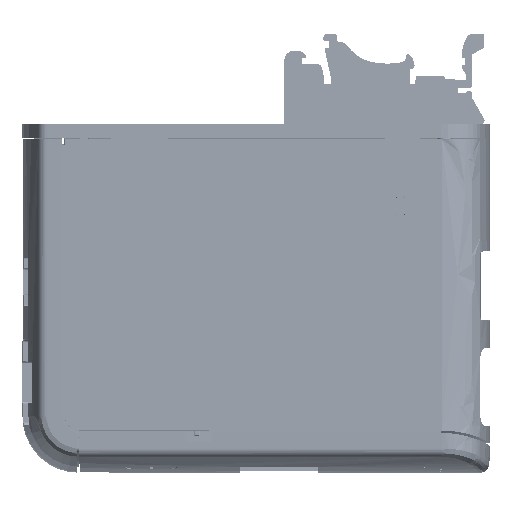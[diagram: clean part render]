
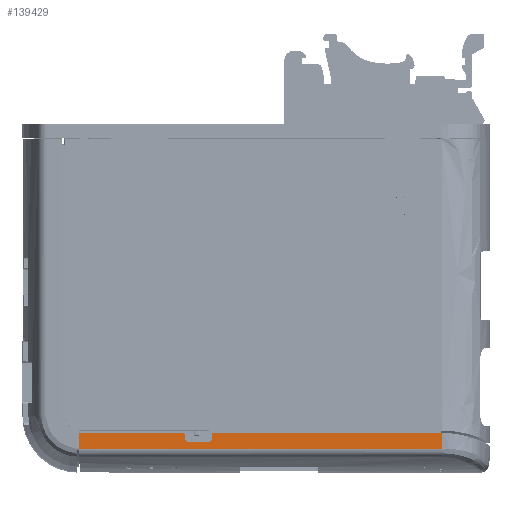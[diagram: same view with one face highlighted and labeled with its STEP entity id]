
A CAD part, front view. The second image highlights one B-rep face of the part: STEP entity #139429.
In plain terms, the highlighted planar face has unit normal (0, -1, -0.018).
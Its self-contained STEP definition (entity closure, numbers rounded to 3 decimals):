
#136744 = EDGE_CURVE ( 'NONE', #136842, #136753, #229996, .T. ) ;
#136753 = VERTEX_POINT ( 'NONE', #229965 ) ;
#136842 = VERTEX_POINT ( 'NONE', #230382 ) ;
#136976 = VERTEX_POINT ( 'NONE', #231056 ) ;
#137012 = EDGE_CURVE ( 'NONE', #136976, #137025, #231174, .T. ) ;
#137025 = VERTEX_POINT ( 'NONE', #231161 ) ;
#137779 = VERTEX_POINT ( 'NONE', #233182 ) ;
#137855 = EDGE_CURVE ( 'NONE', #136842, #137779, #233428, .T. ) ;
#138558 = VERTEX_POINT ( 'NONE', #236395 ) ;
#138567 = EDGE_CURVE ( 'NONE', #138569, #138558, #236381, .T. ) ;
#138569 = VERTEX_POINT ( 'NONE', #236309 ) ;
#139295 = ORIENTED_EDGE ( 'NONE', *, *, #139319, .F. ) ;
#139319 = EDGE_CURVE ( 'NONE', #139323, #139891, #239439, .T. ) ;
#139323 = VERTEX_POINT ( 'NONE', #239431 ) ;
#139335 = ORIENTED_EDGE ( 'NONE', *, *, #139341, .T. ) ;
#139341 = EDGE_CURVE ( 'NONE', #139323, #136753, #239409, .T. ) ;
#139429 = ADVANCED_FACE ( 'NONE', ( #239615 ), #239795, .T. ) ;
#139436 = EDGE_LOOP ( 'NONE', ( #139917, #139937, #140282, #140323, #140082, #140110, #140168, #140184, #140200, #139295, #139335 ) ) ;
#139756 = EDGE_CURVE ( 'NONE', #139760, #137025, #240965, .T. ) ;
#139760 = VERTEX_POINT ( 'NONE', #240954 ) ;
#139885 = EDGE_CURVE ( 'NONE', #136976, #139891, #241336, .T. ) ;
#139891 = VERTEX_POINT ( 'NONE', #241330 ) ;
#139917 = ORIENTED_EDGE ( 'NONE', *, *, #136744, .F. ) ;
#139937 = ORIENTED_EDGE ( 'NONE', *, *, #137855, .T. ) ;
#140046 = EDGE_CURVE ( 'NONE', #140303, #138569, #241749, .T. ) ;
#140082 = ORIENTED_EDGE ( 'NONE', *, *, #138567, .T. ) ;
#140110 = ORIENTED_EDGE ( 'NONE', *, *, #140137, .T. ) ;
#140137 = EDGE_CURVE ( 'NONE', #138558, #139760, #242003, .T. ) ;
#140168 = ORIENTED_EDGE ( 'NONE', *, *, #139756, .T. ) ;
#140184 = ORIENTED_EDGE ( 'NONE', *, *, #137012, .F. ) ;
#140200 = ORIENTED_EDGE ( 'NONE', *, *, #139885, .T. ) ;
#140282 = ORIENTED_EDGE ( 'NONE', *, *, #140295, .F. ) ;
#140295 = EDGE_CURVE ( 'NONE', #140303, #137779, #242306, .T. ) ;
#140303 = VERTEX_POINT ( 'NONE', #242295 ) ;
#140323 = ORIENTED_EDGE ( 'NONE', *, *, #140046, .T. ) ;
#229965 = CARTESIAN_POINT ( 'NONE',  ( -10.981, -16.282, -29.526 ) ) ;
#229990 = DIRECTION ( 'NONE',  ( 0.017, 0.017, -1. ) ) ;
#229992 = VECTOR ( 'NONE', #229990, 1000. ) ;
#229994 = CARTESIAN_POINT ( 'NONE',  ( -10.999, -16.3, -28.5 ) ) ;
#229996 = LINE ( 'NONE', #229994, #229992 ) ;
#230382 = CARTESIAN_POINT ( 'NONE',  ( -10.999, -16.3, -28.5 ) ) ;
#231056 = CARTESIAN_POINT ( 'NONE',  ( -5.147, -16.282, -29.526 ) ) ;
#231161 = CARTESIAN_POINT ( 'NONE',  ( -5.129, -16.3, -28.5 ) ) ;
#231165 = DIRECTION ( 'NONE',  ( 0.017, -0.017, 1. ) ) ;
#231167 = VECTOR ( 'NONE', #231165, 1000. ) ;
#231171 = CARTESIAN_POINT ( 'NONE',  ( -5.129, -16.3, -28.5 ) ) ;
#231174 = LINE ( 'NONE', #231171, #231167 ) ;
#233182 = CARTESIAN_POINT ( 'NONE',  ( -33.45, -16.3, -28.5 ) ) ;
#233420 = DIRECTION ( 'NONE',  ( -1., 0., 0. ) ) ;
#233421 = VECTOR ( 'NONE', #233420, 1000. ) ;
#233426 = CARTESIAN_POINT ( 'NONE',  ( 49., -16.3, -28.5 ) ) ;
#233428 = LINE ( 'NONE', #233426, #233421 ) ;
#236293 = CARTESIAN_POINT ( 'NONE',  ( 43.701, -16.3, -28.5 ) ) ;
#236294 = CARTESIAN_POINT ( 'NONE',  ( 43.701, -16.281, -29.609 ) ) ;
#236296 = CARTESIAN_POINT ( 'NONE',  ( 43.701, -16.261, -30.717 ) ) ;
#236299 = CARTESIAN_POINT ( 'NONE',  ( 43.701, -16.242, -31.826 ) ) ;
#236309 = CARTESIAN_POINT ( 'NONE',  ( 43.701, -16.242, -31.826 ) ) ;
#236381 = B_SPLINE_CURVE_WITH_KNOTS ( 'NONE', 3,
 ( #236299, #236296, #236294, #236293 ),
 .UNSPECIFIED., .F., .F.,
 ( 4, 4 ),
 ( -0.081, -0.078 ),
 .UNSPECIFIED. ) ;
#236395 = CARTESIAN_POINT ( 'NONE',  ( 43.701, -16.3, -28.5 ) ) ;
#239399 = DIRECTION ( 'NONE',  ( 0., 0.017, -1. ) ) ;
#239401 = DIRECTION ( 'NONE',  ( 0., 1., 0.017 ) ) ;
#239405 = CARTESIAN_POINT ( 'NONE',  ( -9.982, -16.282, -29.509 ) ) ;
#239407 = AXIS2_PLACEMENT_3D ( 'NONE', #239405, #239401, #239399 ) ;
#239409 = CIRCLE ( 'NONE', #239407, 1. ) ;
#239431 = CARTESIAN_POINT ( 'NONE',  ( -9.982, -16.265, -30.508 ) ) ;
#239433 = DIRECTION ( 'NONE',  ( 1., 0., 0. ) ) ;
#239434 = VECTOR ( 'NONE', #239433, 1000. ) ;
#239437 = CARTESIAN_POINT ( 'NONE',  ( -5.164, -16.265, -30.508 ) ) ;
#239439 = LINE ( 'NONE', #239437, #239434 ) ;
#239615 = FACE_OUTER_BOUND ( 'NONE', #139436, .T. ) ;
#239781 = DIRECTION ( 'NONE',  ( 0., 0.017, -1. ) ) ;
#239785 = DIRECTION ( 'NONE',  ( 0., -1., -0.017 ) ) ;
#239787 = CARTESIAN_POINT ( 'NONE',  ( 0., -16.3, -28.5 ) ) ;
#239789 = AXIS2_PLACEMENT_3D ( 'NONE', #239787, #239785, #239781 ) ;
#239795 = PLANE ( 'NONE',  #239789 ) ;
#240954 = CARTESIAN_POINT ( 'NONE',  ( 41.029, -16.3, -28.5 ) ) ;
#240958 = DIRECTION ( 'NONE',  ( -1., 0., 0. ) ) ;
#240960 = VECTOR ( 'NONE', #240958, 1000. ) ;
#240963 = CARTESIAN_POINT ( 'NONE',  ( 49., -16.3, -28.5 ) ) ;
#240965 = LINE ( 'NONE', #240963, #240960 ) ;
#241112 = CARTESIAN_POINT ( 'NONE',  ( -6.147, -16.282, -29.509 ) ) ;
#241330 = CARTESIAN_POINT ( 'NONE',  ( -6.147, -16.265, -30.508 ) ) ;
#241331 = DIRECTION ( 'NONE',  ( 0., 0.017, -1. ) ) ;
#241333 = DIRECTION ( 'NONE',  ( 0., 1., 0.017 ) ) ;
#241334 = AXIS2_PLACEMENT_3D ( 'NONE', #241112, #241333, #241331 ) ;
#241336 = CIRCLE ( 'NONE', #241334, 1. ) ;
#241741 = DIRECTION ( 'NONE',  ( 1., 0., 0. ) ) ;
#241744 = VECTOR ( 'NONE', #241741, 1000. ) ;
#241748 = CARTESIAN_POINT ( 'NONE',  ( 43.701, -16.242, -31.826 ) ) ;
#241749 = LINE ( 'NONE', #241748, #241744 ) ;
#241996 = DIRECTION ( 'NONE',  ( -1., 0., 0. ) ) ;
#241998 = VECTOR ( 'NONE', #241996, 1000. ) ;
#242002 = CARTESIAN_POINT ( 'NONE',  ( 49., -16.3, -28.5 ) ) ;
#242003 = LINE ( 'NONE', #242002, #241998 ) ;
#242295 = CARTESIAN_POINT ( 'NONE',  ( -33.392, -16.242, -31.826 ) ) ;
#242299 = DIRECTION ( 'NONE',  ( -0.017, -0.017, 1. ) ) ;
#242301 = VECTOR ( 'NONE', #242299, 1000. ) ;
#242304 = CARTESIAN_POINT ( 'NONE',  ( -33.44, -16.29, -29.084 ) ) ;
#242306 = LINE ( 'NONE', #242304, #242301 ) ;
